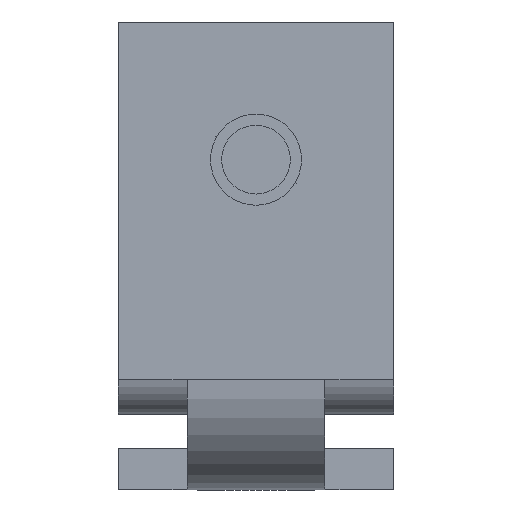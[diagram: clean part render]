
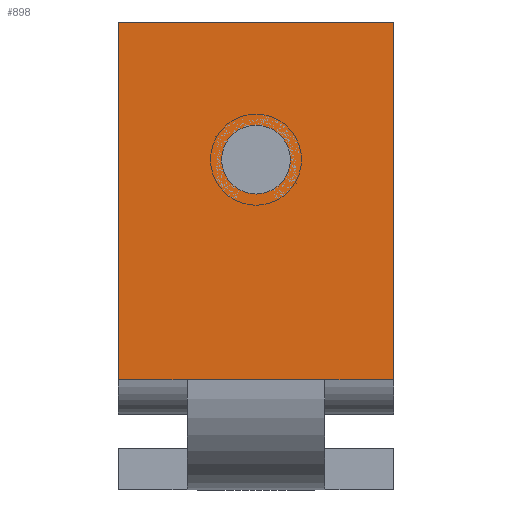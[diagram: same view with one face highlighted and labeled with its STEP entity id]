
A CAD part, front view. The second image highlights one B-rep face of the part: STEP entity #898.
In plain terms, the highlighted planar face has unit normal (0, -1, 0).
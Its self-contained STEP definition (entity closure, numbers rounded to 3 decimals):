
#124 = VERTEX_POINT ( 'NONE', #600 ) ;
#125 = VERTEX_POINT ( 'NONE', #601 ) ;
#126 = VERTEX_POINT ( 'NONE', #602 ) ;
#127 = VERTEX_POINT ( 'NONE', #603 ) ;
#128 = VERTEX_POINT ( 'NONE', #604 ) ;
#131 = VERTEX_POINT ( 'NONE', #607 ) ;
#134 = VERTEX_POINT ( 'NONE', #610 ) ;
#135 = VERTEX_POINT ( 'NONE', #611 ) ;
#136 = EDGE_LOOP ( 'NONE', ( #1188, #192 ) ) ;
#192 = ORIENTED_EDGE ( 'NONE', *, *, #264, .T. ) ;
#264 = EDGE_CURVE ( 'NONE', #134, #135, #1315, .T. ) ;
#274 = EDGE_CURVE ( 'NONE', #124, #131, #1331, .T. ) ;
#276 = EDGE_CURVE ( 'NONE', #126, #127, #1335, .T. ) ;
#279 = EDGE_CURVE ( 'NONE', #135, #134, #1343, .T. ) ;
#280 = EDGE_CURVE ( 'NONE', #127, #128, #1345, .T. ) ;
#281 = EDGE_CURVE ( 'NONE', #125, #128, #1346, .T. ) ;
#282 = EDGE_CURVE ( 'NONE', #131, #125, #1339, .T. ) ;
#283 = EDGE_CURVE ( 'NONE', #126, #124, #1348, .T. ) ;
#450 = AXIS2_PLACEMENT_3D ( 'NONE', #682, #683, #684 ) ;
#453 = AXIS2_PLACEMENT_3D ( 'NONE', #719, #720, #721 ) ;
#600 = CARTESIAN_POINT ( 'NONE',  ( 26., 0., 10. ) ) ;
#601 = CARTESIAN_POINT ( 'NONE',  ( 26., 0., -5. ) ) ;
#602 = CARTESIAN_POINT ( 'NONE',  ( 0., 0., 10. ) ) ;
#603 = CARTESIAN_POINT ( 'NONE',  ( 0., 0., -10. ) ) ;
#604 = CARTESIAN_POINT ( 'NONE',  ( 26., 0., -10. ) ) ;
#607 = CARTESIAN_POINT ( 'NONE',  ( 26., 0., 5. ) ) ;
#610 = CARTESIAN_POINT ( 'NONE',  ( 10., 0., -2.5 ) ) ;
#611 = CARTESIAN_POINT ( 'NONE',  ( 10., 0., 2.5 ) ) ;
#682 = CARTESIAN_POINT ( 'NONE',  ( 10., 0., 0. ) ) ;
#683 = DIRECTION ( 'NONE',  ( 0., 1., 0. ) ) ;
#684 = DIRECTION ( 'NONE',  ( 0., 0., 1. ) ) ;
#703 = CARTESIAN_POINT ( 'NONE',  ( 26., 0., 10. ) ) ;
#707 = CARTESIAN_POINT ( 'NONE',  ( 0., 0., 10. ) ) ;
#708 = DIRECTION ( 'NONE',  ( 0., 0., -1. ) ) ;
#711 = DIRECTION ( 'NONE',  ( 1., 0., 0. ) ) ;
#712 = DIRECTION ( 'NONE',  ( 0., 0., -1. ) ) ;
#713 = CARTESIAN_POINT ( 'NONE',  ( 0., 0., -10. ) ) ;
#717 = CARTESIAN_POINT ( 'NONE',  ( 0., 0., 10. ) ) ;
#718 = CARTESIAN_POINT ( 'NONE',  ( 26., 0., 5. ) ) ;
#719 = CARTESIAN_POINT ( 'NONE',  ( 10., 0., 0. ) ) ;
#720 = DIRECTION ( 'NONE',  ( 0., 1., 0. ) ) ;
#721 = DIRECTION ( 'NONE',  ( 0., 0., 1. ) ) ;
#722 = CARTESIAN_POINT ( 'NONE',  ( 26., 0., 10. ) ) ;
#724 = DIRECTION ( 'NONE',  ( 0., 0., -1. ) ) ;
#725 = DIRECTION ( 'NONE',  ( 0., 0., -1. ) ) ;
#727 = DIRECTION ( 'NONE',  ( 1., 0., 0. ) ) ;
#898 = ADVANCED_FACE ( 'NONE', ( #1656, #1687 ), #2396, .F. ) ;
#1046 = EDGE_LOOP ( 'NONE', ( #1187, #1186, #1185, #1184, #1183, #1182 ) ) ;
#1182 = ORIENTED_EDGE ( 'NONE', *, *, #276, .T. ) ;
#1183 = ORIENTED_EDGE ( 'NONE', *, *, #283, .F. ) ;
#1184 = ORIENTED_EDGE ( 'NONE', *, *, #274, .F. ) ;
#1185 = ORIENTED_EDGE ( 'NONE', *, *, #282, .F. ) ;
#1186 = ORIENTED_EDGE ( 'NONE', *, *, #281, .F. ) ;
#1187 = ORIENTED_EDGE ( 'NONE', *, *, #280, .T. ) ;
#1188 = ORIENTED_EDGE ( 'NONE', *, *, #279, .T. ) ;
#1315 = CIRCLE ( 'NONE', #450, 2.5 ) ;
#1331 = LINE ( 'NONE', #703, #1336 ) ;
#1335 = LINE ( 'NONE', #707, #1340 ) ;
#1336 = VECTOR ( 'NONE', #708, 1000. ) ;
#1339 = LINE ( 'NONE', #718, #1351 ) ;
#1340 = VECTOR ( 'NONE', #712, 1000. ) ;
#1343 = CIRCLE ( 'NONE', #453, 2.5 ) ;
#1345 = LINE ( 'NONE', #713, #1347 ) ;
#1346 = LINE ( 'NONE', #722, #1349 ) ;
#1347 = VECTOR ( 'NONE', #711, 1000. ) ;
#1348 = LINE ( 'NONE', #717, #1353 ) ;
#1349 = VECTOR ( 'NONE', #724, 1000. ) ;
#1351 = VECTOR ( 'NONE', #725, 1000. ) ;
#1353 = VECTOR ( 'NONE', #727, 1000. ) ;
#1656 = FACE_BOUND ( 'NONE', #136, .T. ) ;
#1687 = FACE_OUTER_BOUND ( 'NONE', #1046, .T. ) ;
#2045 = AXIS2_PLACEMENT_3D ( 'NONE', #2394, #2391, #2398 ) ;
#2391 = DIRECTION ( 'NONE',  ( 0., 1., 0. ) ) ;
#2394 = CARTESIAN_POINT ( 'NONE',  ( 0., 0., 10. ) ) ;
#2396 = PLANE ( 'NONE',  #2045 ) ;
#2398 = DIRECTION ( 'NONE',  ( 0., 0., 1. ) ) ;
